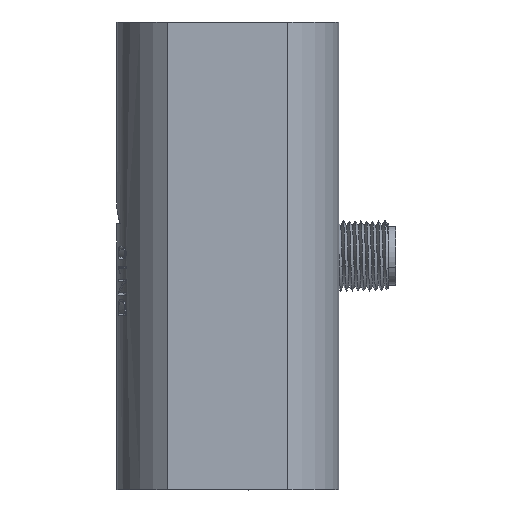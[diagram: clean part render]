
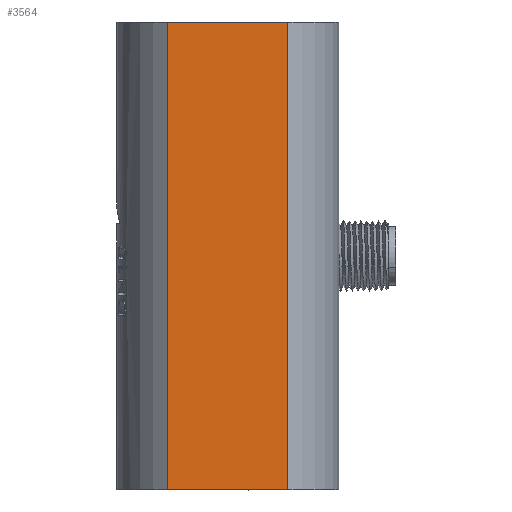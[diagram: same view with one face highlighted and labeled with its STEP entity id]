
A CAD part, front view. The second image highlights one B-rep face of the part: STEP entity #3564.
In plain terms, the highlighted planar face has unit normal (0, -1, 0).
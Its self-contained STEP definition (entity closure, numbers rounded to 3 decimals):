
#3564=ADVANCED_FACE('',(#4604),#3907,.T.);
#3907=PLANE('',#16689);
#4604=FACE_OUTER_BOUND('',#5521,.T.);
#5521=EDGE_LOOP('',(#9988,#9989,#9990,#9991));
#9988=ORIENTED_EDGE('',*,*,#13469,.T.);
#9989=ORIENTED_EDGE('',*,*,#13472,.F.);
#9990=ORIENTED_EDGE('',*,*,#13478,.F.);
#9991=ORIENTED_EDGE('',*,*,#13379,.F.);
#11474=VERTEX_POINT('',#33391);
#11475=VERTEX_POINT('',#33393);
#11541=VERTEX_POINT('',#33830);
#11544=VERTEX_POINT('',#33837);
#13379=EDGE_CURVE('',#11474,#11475,#14459,.T.);
#13469=EDGE_CURVE('',#11474,#11541,#14498,.T.);
#13472=EDGE_CURVE('',#11544,#11541,#14500,.T.);
#13478=EDGE_CURVE('',#11475,#11544,#14504,.T.);
#14459=LINE('',#33392,#15568);
#14498=LINE('',#33831,#15607);
#14500=LINE('',#33838,#15609);
#14504=LINE('',#33848,#15613);
#15568=VECTOR('',#19445,1.);
#15607=VECTOR('',#19574,1.);
#15609=VECTOR('',#19580,1.);
#15613=VECTOR('',#19590,1.);
#16689=AXIS2_PLACEMENT_3D('',#36164,#19655,#19656);
#19445=DIRECTION('',(0.,0.,1.));
#19574=DIRECTION('',(1.,0.,0.));
#19580=DIRECTION('',(0.,0.,-1.));
#19590=DIRECTION('',(1.,0.,0.));
#19655=DIRECTION('',(0.,-1.,0.));
#19656=DIRECTION('',(0.,0.,1.));
#33391=CARTESIAN_POINT('',(-10.299,-16.477,103.));
#33392=CARTESIAN_POINT('',(-10.299,-16.477,99.));
#33393=CARTESIAN_POINT('',(-10.299,-16.477,183.));
#33830=CARTESIAN_POINT('',(10.268,-16.477,103.));
#33831=CARTESIAN_POINT('',(-0.016,-16.477,103.));
#33837=CARTESIAN_POINT('',(10.268,-16.477,183.));
#33838=CARTESIAN_POINT('',(10.268,-16.477,99.));
#33848=CARTESIAN_POINT('',(-0.016,-16.477,183.));
#36164=CARTESIAN_POINT('',(-22.516,-16.477,40.));
